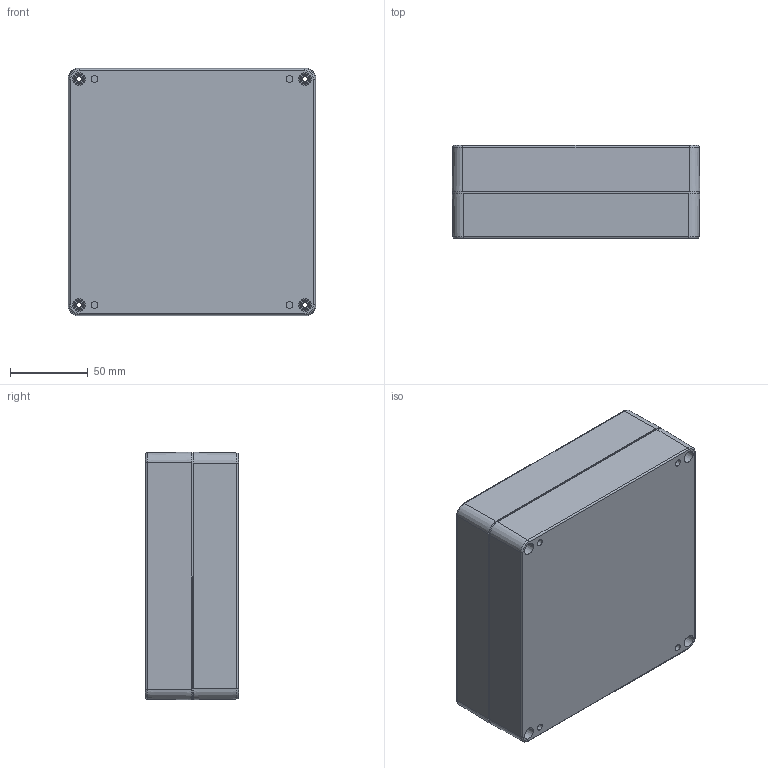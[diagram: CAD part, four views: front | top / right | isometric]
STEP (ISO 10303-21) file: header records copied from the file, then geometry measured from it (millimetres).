
FILE_DESCRIPTION (( 'STEP AP203' ), '1' );
FILE_NAME ('PE244.STEP', '2019-11-27T12:09:40', ( '' ), ( '' ), 'SwSTEP 2.0', 'SolidWorks 2020', '' );
FILE_SCHEMA (( 'CONFIG_CONTROL_DESIGN' ));
Length unit declared in the file: millimetre
Products named in the file (4): PE244
Assembly tree (3 placements, depth 2):
  PE244
    PE244
    PE244
    PE244
Bounding box: 159.9 x 60 x 159.9 mm (x, y, z)
Volume: 345061.8 mm3; surface area: 241730.1 mm2
Topology: 11 solids, 11 shells, 1364 faces, 3600 edges, 2336 vertices
Faces by surface type: bspline 440, cylinder 340, plane 304, cone 272, torus 8
Entity records: 47278 total; most frequent: CARTESIAN_POINT 15430, ORIENTED_EDGE 7200, DIRECTION 5764, EDGE_CURVE 3600, VERTEX_POINT 2336, AXIS2_PLACEMENT_3D 2122, LINE 1520, VECTOR 1520
